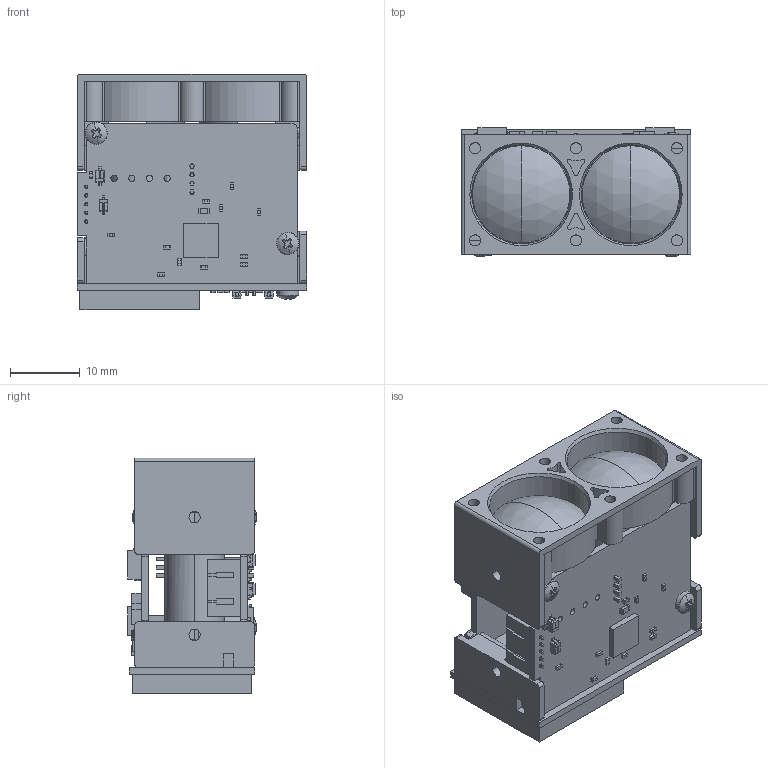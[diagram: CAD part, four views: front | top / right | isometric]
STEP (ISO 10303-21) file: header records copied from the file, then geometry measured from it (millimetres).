
FILE_DESCRIPTION (( 'STEP AP203' ), '1' );
FILE_NAME ('SW-SP50A-M-00 单点激光测距模组.STEP', '2025-03-06T02:27:59', ( '' ), ( '' ), 'SwSTEP 2.0', 'SolidWorks 2020', '' );
FILE_SCHEMA (( 'CONFIG_CONTROL_DESIGN' ));
Products named in the file (1): SW-SP50A-M-00 单点激光测距模组
Bounding box: 33 x 18.52 x 33.9 mm (x, y, z)
Surface area: 10429.8 mm2 (no closed solid volume)
Topology: 0 solids, 117 shells, 945 faces, 4217 edges, 3367 vertices
Faces by surface type: plane 748, cylinder 160, sphere 16, torus 10, bspline 7, cone 4
Entity records: 43898 total; most frequent: CARTESIAN_POINT 11431, ORIENTED_EDGE 6333, DIRECTION 5852, EDGE_CURVE 4217, VERTEX_POINT 3367, VECTOR 2728, LINE 2728, AXIS2_PLACEMENT_3D 1562
